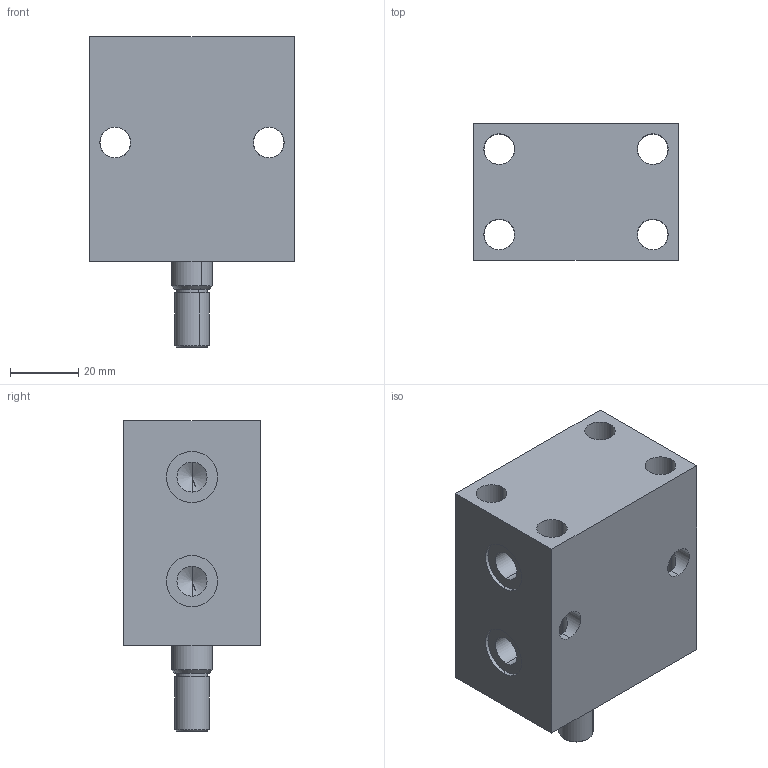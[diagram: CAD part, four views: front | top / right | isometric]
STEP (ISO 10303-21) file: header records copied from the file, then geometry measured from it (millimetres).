
FILE_DESCRIPTION (( 'STEP AP203' ), '1' );
FILE_NAME ('Block cylinder B01C-016M.STEP', '2022-07-09T17:54:20', ( '' ), ( '' ), 'SwSTEP 2.0', 'SolidWorks 2017', '' );
FILE_SCHEMA (( 'CONFIG_CONTROL_DESIGN' ));
Length unit declared in the file: millimetre
Products named in the file (3): Block cylinder B01C-016M; Body_016M; Piston_016M
Assembly tree (2 placements, depth 2):
  Block cylinder B01C-016M
    Body_016M
    Piston_016M
Bounding box: 60 x 40 x 91 mm (x, y, z)
Volume: 137550.3 mm3; surface area: 30823.3 mm2
Topology: 2 solids, 2 shells, 351 faces, 952 edges, 622 vertices
Faces by surface type: bspline 155, plane 142, cylinder 46, cone 8
Entity records: 17637 total; most frequent: CARTESIAN_POINT 9593, ORIENTED_EDGE 1896, DIRECTION 1072, EDGE_CURVE 948, VERTEX_POINT 622, VECTOR 542, LINE 542, EDGE_LOOP 392
